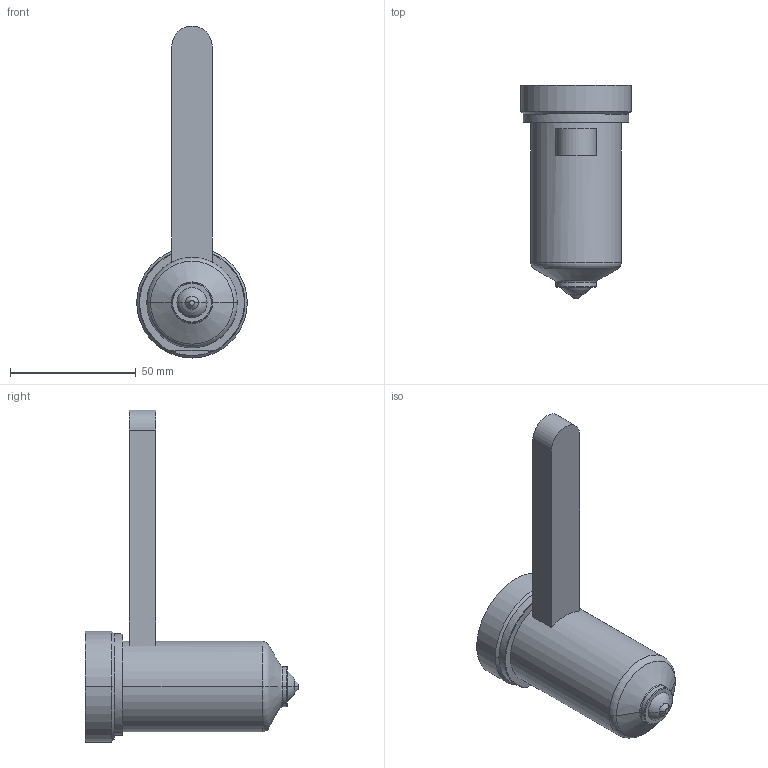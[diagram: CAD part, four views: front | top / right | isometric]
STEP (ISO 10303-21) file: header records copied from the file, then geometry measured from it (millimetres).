
FILE_DESCRIPTION((''),'2;1');
FILE_NAME('EO12_PG-BL_WR_070_COT','2024-02-19T11:14:02',('sundharh'),(''),'CREO PARAMETRIC BY PTC INC, 2023154','CREO PARAMETRIC BY PTC INC, 2023154','');
FILE_SCHEMA(('CONFIG_CONTROL_DESIGN'));
Length unit declared in the file: millimetre
Products named in the file (1): EO12_PG-BL_WR_070_COT
Bounding box: 44 x 85 x 132 mm (x, y, z)
Volume: 99592.1 mm3; surface area: 16516.5 mm2
Topology: 1 solids, 1 shells, 40 faces, 85 edges, 50 vertices
Faces by surface type: cylinder 13, plane 10, torus 9, cone 6, sphere 2
Entity records: 1185 total; most frequent: CARTESIAN_POINT 255, DIRECTION 209, ORIENTED_EDGE 170, AXIS2_PLACEMENT_3D 90, EDGE_CURVE 85, VERTEX_POINT 50, CIRCLE 50, EDGE_LOOP 43
